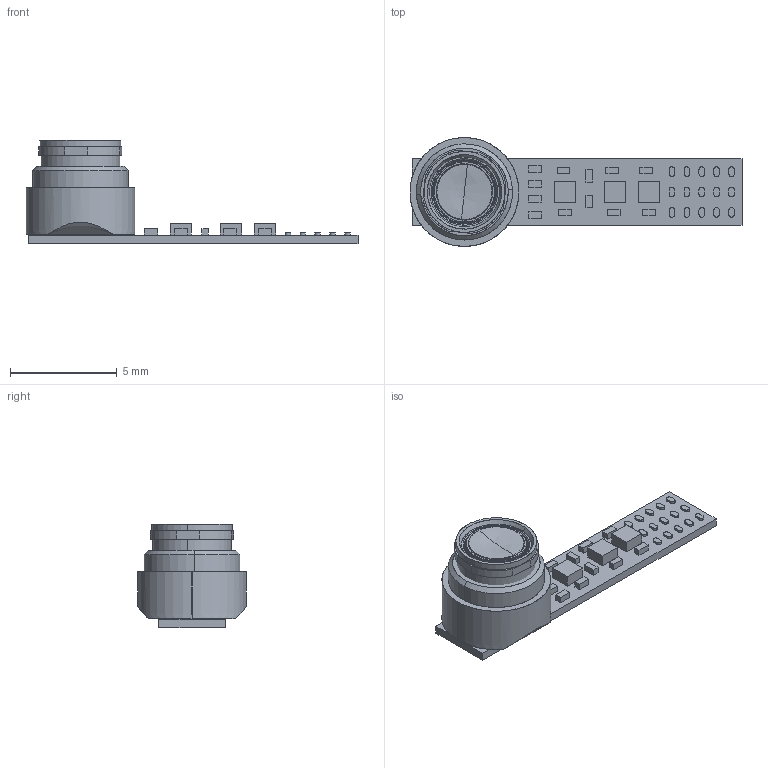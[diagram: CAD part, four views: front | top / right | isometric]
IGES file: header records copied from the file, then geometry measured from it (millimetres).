
Start section: SolidWorks IGES file using analytic representation for surfaces
Bounding box: 15.55 x 5.1 x 4.84 mm (x, y, z)
Surface area: 385 mm2 (no closed solid volume)
Topology: 0 solids, 0 shells, 290 faces, 2604 edges, 2600 vertices
Faces by surface type: bspline 174, revolution 116
